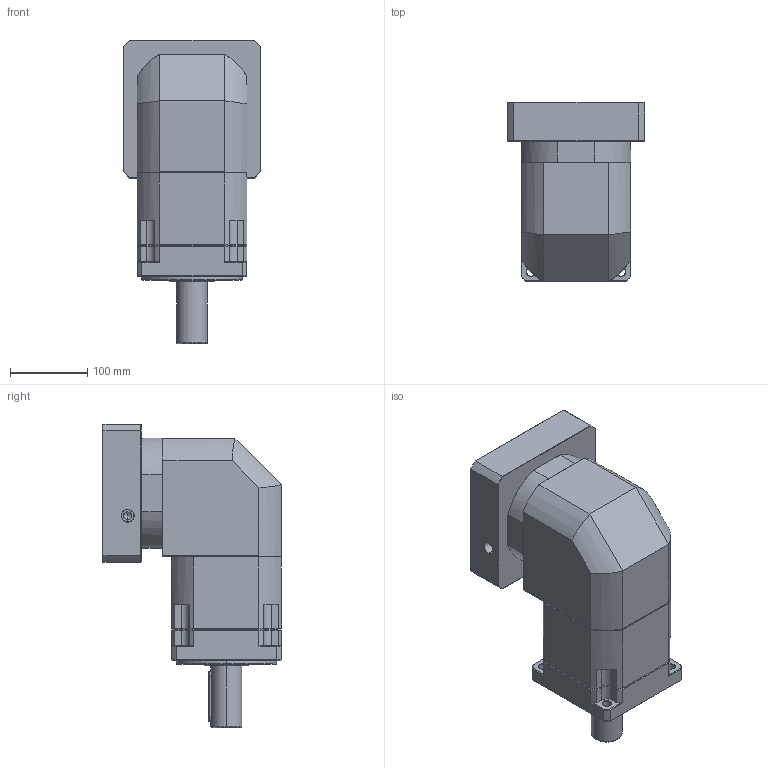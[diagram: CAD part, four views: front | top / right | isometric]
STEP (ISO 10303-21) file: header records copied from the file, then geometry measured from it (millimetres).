
FILE_DESCRIPTION (( 'STEP AP214' ), '1' );
FILE_NAME ('ZBR142A-D40-L2-P2-35-150-200-M12.step', '2023-09-02T07:12:55', ( '' ), ( '' ), 'SwSTEP 2.0', 'SolidWorks 2016', '' );
FILE_SCHEMA (( 'AUTOMOTIVE_DESIGN' ));
Length unit declared in the file: millimetre
Products named in the file (1): ZBR142A-D40-L2-P2-35-150-200-M12
Bounding box: 178 x 231 x 391.7 mm (x, y, z)
Volume: 6660795.9 mm3; surface area: 447149.1 mm2
Topology: 6 solids, 6 shells, 2298 faces, 6061 edges, 3870 vertices
Faces by surface type: plane 1120, cylinder 414, bspline 410, cone 332, torus 22
Entity records: 128733 total; most frequent: CARTESIAN_POINT 49981, ORIENTED_EDGE 12062, DIRECTION 9528, EDGE_CURVE 6031, VECTOR 3898, LINE 3898, VERTEX_POINT 3870, AXIS2_PLACEMENT_3D 2815
